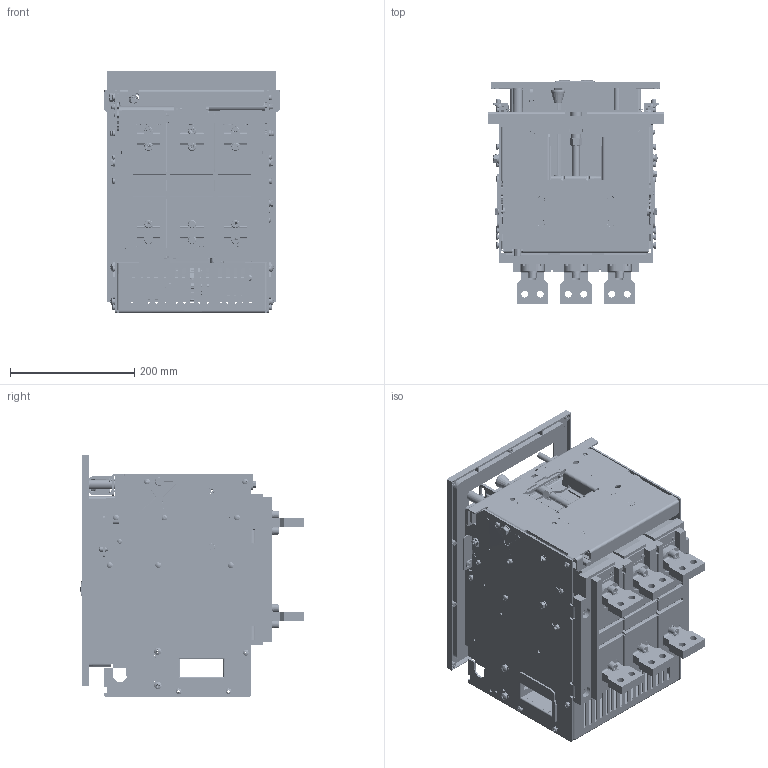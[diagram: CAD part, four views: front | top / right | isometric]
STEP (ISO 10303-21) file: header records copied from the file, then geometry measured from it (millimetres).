
FILE_DESCRIPTION (( 'STEP AP214' ), '1' );
FILE_NAME ('TEW5-1600 D 3P 1250A-1600A.STEP', '2026-04-03T10:32:47', ( '' ), ( '' ), 'SwSTEP 2.0', 'SolidWorks 2024', '' );
FILE_SCHEMA (( 'AUTOMOTIVE_DESIGN' ));
Products named in the file (1): TEW5-1600 D 3P 1250A-1600A
Bounding box: 282 x 359.24 x 390.25 mm (x, y, z)
Surface area: 2046743.1 mm2 (no closed solid volume)
Topology: 0 solids, 2755 shells, 8956 faces, 43497 edges, 36497 vertices
Faces by surface type: plane 4455, cylinder 2930, torus 973, cone 331, bspline 186, sphere 81
Entity records: 555369 total; most frequent: CARTESIAN_POINT 228146, DIRECTION 63569, ORIENTED_EDGE 54469, EDGE_CURVE 43425, VERTEX_POINT 36488, LINE 22423, VECTOR 22423, AXIS2_PLACEMENT_3D 20573
